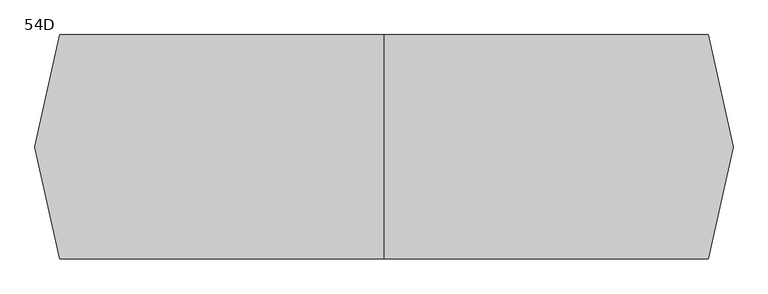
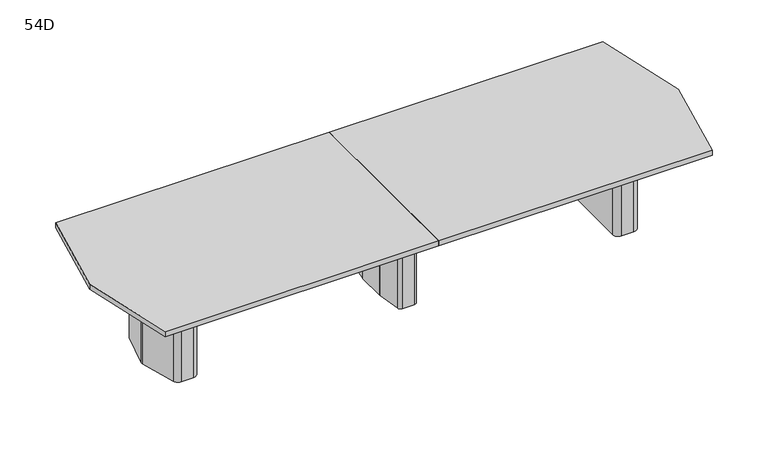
"""IFC4 building model written with IfcOpenShell, lengths in millimetres: furniture geometry, Coalesse_AM_Table_Conference_ETable2_Faceted_14ft_ThreeBase : 54D."""

from ifc_helpers import new_model, si_unit, frame, origin, place, context, project, spatial, polyline, circle_curve, outline, extrude, source, transform, mapped, element, save
from ifc_brep_helpers import plane_surface, cylinder_surface, revolved_surface, advanced_brep


def furniture_54d_fdfb3cb8(model_context):
    return source(origin(), model_context, "Body", "SolidModel", [
        advanced_brep(
        [(35.71875, 206.375, 3.175), (10.31875, 231.775, 3.175), (-10.31875, 231.775, 3.175), (-35.71875, 206.375, 3.175), (-35.71875, -206.375, 3.175), (-10.31875, -231.775, 3.175), (10.31875, -231.775, 3.175), (35.71875, -206.375, 3.175), (-61.11875, 206.375, 0.0), (-10.31875, 257.175, 0.0), (10.31875, 257.175, 0.0), (61.11875, 206.375, 0.0), (61.11875, -206.375, 0.0), (10.31875, -257.175, 0.0), (-10.31875, -257.175, 0.0), (-61.11875, -206.375, 0.0), (-61.11875, -206.375, 3.175), (-61.11875, 206.375, 3.175), (-10.31875, -257.175, 3.175), (10.31875, -257.175, 3.175), (61.11875, -206.375, 3.175), (61.11875, 206.375, 3.175), (10.31875, 257.175, 3.175), (-10.31875, 257.175, 3.175), (-92.6215974, 106.2976848, 698.5), (-92.86875, 102.7629613, 698.5), (-92.86875, -102.7629613, 698.5), (-92.6215974, -106.2976848, 698.5), (-67.7988375, -282.9347235, 698.5), (-42.6459902, -304.8, 698.5), (42.6459902, -304.8, 698.5), (67.7988375, -282.9347235, 698.5), (92.6215974, -106.2976848, 698.5), (92.86875, -102.7629613, 698.5), (92.86875, 102.7629613, 698.5), (92.6215974, 106.2976848, 698.5), (67.7988375, 282.9347235, 698.5), (42.6459902, 304.8, 698.5), (-42.6459902, 304.8, 698.5), (-67.7988375, 282.9347235, 698.5), (10.31875, 231.775, 698.5), (35.71875, 206.375, 698.5), (35.71875, -206.375, 698.5), (10.31875, -231.775, 698.5), (-10.31875, -231.775, 698.5), (-35.71875, -206.375, 698.5), (-35.71875, 206.375, 698.5), (-10.31875, 231.775, 698.5), (-92.6215974, 106.2976848, 3.175), (-67.7988375, 282.9347235, 3.175), (-42.6459902, 304.8, 3.175), (42.6459902, 304.8, 3.175), (67.7988375, 282.9347235, 3.175), (92.6215974, 106.2976848, 3.175), (92.86875, 102.7629613, 3.175), (92.86875, -102.7629613, 3.175), (92.6215974, -106.2976848, 3.175), (67.7988375, -282.9347235, 3.175), (42.6459902, -304.8, 3.175), (-42.6459902, -304.8, 3.175), (-67.7988375, -282.9347235, 3.175), (-92.6215974, -106.2976848, 3.175), (-92.86875, -102.7629613, 3.175), (-92.86875, 102.7629613, 3.175)],
        [
            (0, 1, circle_curve(frame((10.31875, 206.375, 3.175), z_axis=(0.0, 0.0, 1.0), x_axis=(1.0, 0.0, 0.0)), 25.4)),
            (1, 2),
            (2, 3, circle_curve(frame((-10.31875, 206.375, 3.175), z_axis=(0.0, 0.0, 1.0), x_axis=(1.0, 0.0, 0.0)), 25.4)),
            (3, 4),
            (4, 5, circle_curve(frame((-10.31875, -206.375, 3.175), z_axis=(0.0, 0.0, 1.0), x_axis=(1.0, 0.0, 0.0)), 25.4)),
            (5, 6),
            (6, 7, circle_curve(frame((10.31875, -206.375, 3.175), z_axis=(0.0, 0.0, 1.0), x_axis=(1.0, 0.0, 0.0)), 25.4)),
            (7, 0),
            (8, 9, circle_curve(frame((-10.31875, 206.375, 0.0), z_axis=(0.0, 0.0, -1.0), x_axis=(1.0, 0.0, 0.0)), 50.8)),
            (9, 10),
            (10, 11, circle_curve(frame((10.31875, 206.375, 0.0), z_axis=(0.0, 0.0, -1.0), x_axis=(1.0, 0.0, 0.0)), 50.8)),
            (11, 12),
            (12, 13, circle_curve(frame((10.31875, -206.375, 0.0), z_axis=(0.0, 0.0, -1.0), x_axis=(1.0, 0.0, 0.0)), 50.8)),
            (13, 14),
            (14, 15, circle_curve(frame((-10.31875, -206.375, 0.0), z_axis=(0.0, 0.0, -1.0), x_axis=(1.0, 0.0, 0.0)), 50.8)),
            (15, 8),
            (15, 16),
            (16, 17),
            (17, 8),
            (14, 18),
            (18, 16, circle_curve(frame((-10.31875, -206.375, 3.175), z_axis=(0.0, 0.0, -1.0), x_axis=(1.0, 0.0, 0.0)), 50.8)),
            (13, 19),
            (19, 18),
            (12, 20),
            (20, 19, circle_curve(frame((10.31875, -206.375, 3.175), z_axis=(0.0, 0.0, -1.0), x_axis=(1.0, 0.0, 0.0)), 50.8)),
            (11, 21),
            (21, 20),
            (10, 22),
            (22, 21, circle_curve(frame((10.31875, 206.375, 3.175), z_axis=(0.0, 0.0, -1.0), x_axis=(1.0, 0.0, 0.0)), 50.8)),
            (9, 23),
            (23, 22),
            (17, 23, circle_curve(frame((-10.31875, 206.375, 3.175), z_axis=(0.0, 0.0, -1.0), x_axis=(1.0, 0.0, 0.0)), 50.8)),
            (24, 25, circle_curve(frame((-67.46875, 102.7629613, 698.5), z_axis=(0.0, 0.0, 1.0), x_axis=(1.0, 0.0, 0.0)), 25.4)),
            (25, 26),
            (26, 27, circle_curve(frame((-67.46875, -102.7629613, 698.5), z_axis=(0.0, 0.0, 1.0), x_axis=(1.0, 0.0, 0.0)), 25.4)),
            (27, 28),
            (28, 29, circle_curve(frame((-42.6459902, -279.4, 698.5), z_axis=(0.0, 0.0, 1.0), x_axis=(1.0, 0.0, 0.0)), 25.4)),
            (29, 30),
            (30, 31, circle_curve(frame((42.6459902, -279.4, 698.5), z_axis=(0.0, 0.0, 1.0), x_axis=(1.0, 0.0, 0.0)), 25.4)),
            (31, 32),
            (32, 33, circle_curve(frame((67.46875, -102.7629613, 698.5), z_axis=(0.0, 0.0, 1.0), x_axis=(1.0, 0.0, 0.0)), 25.4)),
            (33, 34),
            (34, 35, circle_curve(frame((67.46875, 102.7629613, 698.5), z_axis=(0.0, 0.0, 1.0), x_axis=(1.0, 0.0, 0.0)), 25.4)),
            (35, 36),
            (36, 37, circle_curve(frame((42.6459902, 279.4, 698.5), z_axis=(0.0, 0.0, 1.0), x_axis=(1.0, 0.0, 0.0)), 25.4)),
            (37, 38),
            (38, 39, circle_curve(frame((-42.6459902, 279.4, 698.5), z_axis=(0.0, 0.0, 1.0), x_axis=(1.0, 0.0, 0.0)), 25.4)),
            (39, 24),
            (40, 41, circle_curve(frame((10.31875, 206.375, 698.5), z_axis=(0.0, 0.0, -1.0), x_axis=(1.0, 0.0, 0.0)), 25.4)),
            (41, 42),
            (42, 43, circle_curve(frame((10.31875, -206.375, 698.5), z_axis=(0.0, 0.0, -1.0), x_axis=(1.0, 0.0, 0.0)), 25.4)),
            (43, 44),
            (44, 45, circle_curve(frame((-10.31875, -206.375, 698.5), z_axis=(0.0, 0.0, -1.0), x_axis=(1.0, 0.0, 0.0)), 25.4)),
            (45, 46),
            (46, 47, circle_curve(frame((-10.31875, 206.375, 698.5), z_axis=(0.0, 0.0, -1.0), x_axis=(1.0, 0.0, 0.0)), 25.4)),
            (47, 40),
            (48, 49),
            (49, 50, circle_curve(frame((-42.6459902, 279.4, 3.175), z_axis=(0.0, 0.0, -1.0), x_axis=(1.0, 0.0, 0.0)), 25.4)),
            (50, 51),
            (51, 52, circle_curve(frame((42.6459902, 279.4, 3.175), z_axis=(0.0, 0.0, -1.0), x_axis=(1.0, 0.0, 0.0)), 25.4)),
            (52, 53),
            (53, 54, circle_curve(frame((67.46875, 102.7629613, 3.175), z_axis=(0.0, 0.0, -1.0), x_axis=(1.0, 0.0, 0.0)), 25.4)),
            (54, 55),
            (55, 56, circle_curve(frame((67.46875, -102.7629613, 3.175), z_axis=(0.0, 0.0, -1.0), x_axis=(1.0, 0.0, 0.0)), 25.4)),
            (56, 57),
            (57, 58, circle_curve(frame((42.6459902, -279.4, 3.175), z_axis=(0.0, 0.0, -1.0), x_axis=(1.0, 0.0, 0.0)), 25.4)),
            (58, 59),
            (59, 60, circle_curve(frame((-42.6459902, -279.4, 3.175), z_axis=(0.0, 0.0, -1.0), x_axis=(1.0, 0.0, 0.0)), 25.4)),
            (60, 61),
            (61, 62, circle_curve(frame((-67.46875, -102.7629613, 3.175), z_axis=(0.0, 0.0, -1.0), x_axis=(1.0, 0.0, 0.0)), 25.4)),
            (62, 63),
            (63, 48, circle_curve(frame((-67.46875, 102.7629613, 3.175), z_axis=(0.0, 0.0, -1.0), x_axis=(1.0, 0.0, 0.0)), 25.4)),
            (24, 48),
            (63, 25),
            (62, 26),
            (61, 27),
            (60, 28),
            (59, 29),
            (58, 30),
            (57, 31),
            (56, 32),
            (55, 33),
            (54, 34),
            (53, 35),
            (52, 36),
            (51, 37),
            (50, 38),
            (49, 39),
            (40, 1),
            (0, 41),
            (7, 42),
            (6, 43),
            (5, 44),
            (4, 45),
            (3, 46),
            (2, 47),
        ],
        [
            plane_surface(frame((-61.11875, -206.375, 3.175), z_axis=(0.0, 0.0, 1.0), x_axis=(0.0, -1.0, 0.0))),
            plane_surface(frame((-61.11875, -206.375, 0.0), z_axis=(0.0, 0.0, -1.0), x_axis=(0.0, 1.0, 0.0))),
            plane_surface(frame((-61.11875, 206.375, 3.175), z_axis=(-1.0, 0.0, 0.0), x_axis=(0.0, 0.0, -1.0))),
            cylinder_surface(frame((-10.31875, -206.375, 0.0), z_axis=(0.0, 0.0, 1.0), x_axis=(1.0, 0.0, 0.0)), 50.8),
            plane_surface(frame((-10.31875, -257.175, 3.175), z_axis=(0.0, -1.0, 0.0), x_axis=(0.0, 0.0, -1.0))),
            cylinder_surface(frame((10.31875, -206.375, 0.0), z_axis=(0.0, 0.0, 1.0), x_axis=(1.0, 0.0, 0.0)), 50.8),
            plane_surface(frame((61.11875, -206.375, 3.175), z_axis=(1.0, 0.0, 0.0), x_axis=(0.0, 0.0, -1.0))),
            cylinder_surface(frame((10.31875, 206.375, 0.0), z_axis=(0.0, 0.0, 1.0), x_axis=(1.0, 0.0, 0.0)), 50.8),
            plane_surface(frame((10.31875, 257.175, 3.175), z_axis=(0.0, 1.0, 0.0), x_axis=(0.0, 0.0, -1.0))),
            cylinder_surface(frame((-10.31875, 206.375, 0.0), z_axis=(0.0, 0.0, 1.0), x_axis=(1.0, 0.0, 0.0)), 50.8),
            plane_surface(frame((-42.06875, 102.7629613, 698.5), z_axis=(0.0, 0.0, 1.0), x_axis=(0.0, 1.0, 0.0))),
            plane_surface(frame((-42.06875, 102.7629613, 3.175), z_axis=(0.0, 0.0, -1.0), x_axis=(0.0, -1.0, 0.0))),
            cylinder_surface(frame((-67.46875, 102.7629613, 3.175), z_axis=(0.0, 0.0, 1.0), x_axis=(1.0, 0.0, 0.0)), 25.4),
            plane_surface(frame((-92.86875, 102.7629613, 698.5), z_axis=(-1.0, 0.0, 0.0), x_axis=(0.0, 0.0, -1.0))),
            cylinder_surface(frame((-67.46875, -102.7629613, 3.175), z_axis=(0.0, 0.0, 1.0), x_axis=(1.0, 0.0, 0.0)), 25.4),
            plane_surface(frame((-92.6215974, -106.2976848, 698.5), z_axis=(-0.9902695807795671, -0.13916234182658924, 0.0), x_axis=(0.0, 0.0, -1.0))),
            cylinder_surface(frame((-42.6459902, -279.4, 3.175), z_axis=(0.0, 0.0, 1.0), x_axis=(1.0, 0.0, 0.0)), 25.4),
            plane_surface(frame((-42.6459902, -304.8, 698.5), z_axis=(0.0, -1.0, 0.0), x_axis=(0.0, 0.0, -1.0))),
            cylinder_surface(frame((42.6459902, -279.4, 3.175), z_axis=(0.0, 0.0, 1.0), x_axis=(1.0, 0.0, 0.0)), 25.4),
            plane_surface(frame((67.7988375, -282.9347235, 698.5), z_axis=(0.9902695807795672, -0.13916234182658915, 0.0), x_axis=(0.0, 0.0, -1.0))),
            cylinder_surface(frame((67.46875, -102.7629613, 3.175), z_axis=(0.0, 0.0, 1.0), x_axis=(1.0, 0.0, 0.0)), 25.4),
            plane_surface(frame((92.86875, -102.7629613, 698.5), z_axis=(1.0, 0.0, 0.0), x_axis=(0.0, 0.0, -1.0))),
            cylinder_surface(frame((67.46875, 102.7629613, 3.175), z_axis=(0.0, 0.0, 1.0), x_axis=(1.0, 0.0, 0.0)), 25.4),
            plane_surface(frame((92.6215974, 106.2976848, 698.5), z_axis=(0.9902695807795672, 0.1391623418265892, 0.0), x_axis=(0.0, 0.0, -1.0))),
            cylinder_surface(frame((42.6459902, 279.4, 3.175), z_axis=(0.0, 0.0, 1.0), x_axis=(1.0, 0.0, 0.0)), 25.4),
            plane_surface(frame((42.6459902, 304.8, 698.5), z_axis=(0.0, 1.0, 0.0), x_axis=(0.0, 0.0, -1.0))),
            cylinder_surface(frame((-42.6459902, 279.4, 3.175), z_axis=(0.0, 0.0, 1.0), x_axis=(1.0, 0.0, 0.0)), 25.4),
            plane_surface(frame((-67.7988375, 282.9347235, 698.5), z_axis=(-0.9902695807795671, 0.13916234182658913, 0.0), x_axis=(0.0, 0.0, -1.0))),
            revolved_surface(polyline([(35.71875, 206.375, 3.175), (35.71875, 206.375, 698.5)]), (10.31875, 206.375, 0.0), (0.0, 0.0, -1.0)),
            plane_surface(frame((35.71875, 206.375, 698.5), z_axis=(-1.0, 0.0, 0.0), x_axis=(0.0, 0.0, -1.0))),
            revolved_surface(polyline([(35.71875, -206.375, 3.175), (35.71875, -206.375, 698.5)]), (10.31875, -206.375, 0.0), (0.0, 0.0, -1.0)),
            plane_surface(frame((10.31875, -231.775, 698.5), z_axis=(0.0, 1.0, 0.0), x_axis=(0.0, 0.0, -1.0))),
            revolved_surface(polyline([(15.081249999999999, -206.375, 3.175), (15.081249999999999, -206.375, 698.5)]), (-10.31875, -206.375, 0.0), (0.0, 0.0, -1.0)),
            plane_surface(frame((-35.71875, -206.375, 698.5), z_axis=(1.0, 0.0, 0.0), x_axis=(0.0, 0.0, -1.0))),
            revolved_surface(polyline([(15.081249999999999, 206.375, 3.175), (15.081249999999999, 206.375, 698.5)]), (-10.31875, 206.375, 0.0), (0.0, 0.0, -1.0)),
            plane_surface(frame((-10.31875, 231.775, 698.5), z_axis=(0.0, -1.0, 0.0), x_axis=(0.0, 0.0, -1.0))),
        ],
        [
            (0, [[1, 2, 3, 4, 5, 6, 7, 8]]),
            (1, [[9, 10, 11, 12, 13, 14, 15, 16]]),
            (2, [[-16, 17, 18, 19]]),
            (3, [[-15, 20, 21, -17]]),
            (4, [[-14, 22, 23, -20]]),
            (5, [[-13, 24, 25, -22]]),
            (6, [[-12, 26, 27, -24]]),
            (7, [[-11, 28, 29, -26]]),
            (8, [[-10, 30, 31, -28]]),
            (9, [[-9, -19, 32, -30]]),
            (10, [[33, 34, 35, 36, 37, 38, 39, 40, 41, 42, 43, 44, 45, 46, 47, 48], [49, 50, 51, 52, 53, 54, 55, 56]]),
            (11, [[57, 58, 59, 60, 61, 62, 63, 64, 65, 66, 67, 68, 69, 70, 71, 72], [-18, -21, -23, -25, -27, -29, -31, -32]]),
            (12, [[-33, 73, -72, 74]]),
            (13, [[-34, -74, -71, 75]]),
            (14, [[-35, -75, -70, 76]]),
            (15, [[-36, -76, -69, 77]]),
            (16, [[-37, -77, -68, 78]]),
            (17, [[-38, -78, -67, 79]]),
            (18, [[-39, -79, -66, 80]]),
            (19, [[-40, -80, -65, 81]]),
            (20, [[-41, -81, -64, 82]]),
            (21, [[-42, -82, -63, 83]]),
            (22, [[-43, -83, -62, 84]]),
            (23, [[-44, -84, -61, 85]]),
            (24, [[-45, -85, -60, 86]]),
            (25, [[-46, -86, -59, 87]]),
            (26, [[-47, -87, -58, 88]]),
            (27, [[-48, -88, -57, -73]]),
            (28, [[-49, 89, -1, 90]]),
            (29, [[-50, -90, -8, 91]]),
            (30, [[-51, -91, -7, 92]]),
            (31, [[-52, -92, -6, 93]]),
            (32, [[-53, -93, -5, 94]]),
            (33, [[-54, -94, -4, 95]]),
            (34, [[-55, -95, -3, 96]]),
            (35, [[-56, -96, -2, -89]]),
        ],
    ),
        advanced_brep(
        [(1675.024548, 274.2093613, 698.5), (1635.1579246, 304.8, 698.5), (1546.225, 304.8, 698.5), (1504.95, 263.525, 698.5), (1504.95, -263.525, 698.5), (1546.225, -304.8, 698.5), (1635.1579246, -304.8, 698.5), (1675.024548, -274.2093613, 698.5), (1745.6503901, -10.6333708, 698.5), (1745.6503901, 10.6333708, 698.5), (1543.05, -206.375, 698.5), (1543.05, 206.375, 698.5), (1568.45, 231.775, 698.5), (1627.4608422, 231.775, 698.5), (1651.995338, 212.9490792, 698.5), (1690.6875, 68.54974, 698.5), (1690.6875, -68.54974, 698.5), (1651.995338, -212.9490792, 698.5), (1627.4608422, -231.775, 698.5), (1568.45, -231.775, 698.5), (1675.024548, 274.2093613, 3.175), (1745.6503901, 10.6333708, 3.175), (1745.6503901, -10.6333708, 3.175), (1675.024548, -274.2093613, 3.175), (1635.1579246, -304.8, 3.175), (1546.225, -304.8, 3.175), (1504.95, -263.525, 3.175), (1504.95, 263.525, 3.175), (1546.225, 304.8, 3.175), (1635.1579246, 304.8, 3.175), (1664.2625859, 216.2361187, 3.175), (1627.4608422, 244.475, 3.175), (1568.45, 244.475, 3.175), (1530.35, 206.375, 3.175), (1530.35, -206.375, 3.175), (1568.45, -244.475, 3.175), (1627.4608422, -244.475, 3.175), (1664.2625859, -216.2361187, 3.175), (1703.3875, -70.2217466, 3.175), (1703.3875, 70.2217466, 3.175), (1568.45, -231.775, 3.175), (1543.05, -206.375, 3.175), (1627.4608422, -231.775, 3.175), (1651.995338, -212.9490792, 3.175), (1690.6875, -68.54974, 3.175), (1690.6875, 68.54974, 3.175), (1651.995338, 212.9490792, 3.175), (1627.4608422, 231.775, 3.175), (1568.45, 231.775, 3.175), (1543.05, 206.375, 3.175), (1664.2625859, 216.2361187, 0.0), (1703.3875, 70.2217466, 0.0), (1703.3875, -70.2217466, 0.0), (1664.2625859, -216.2361187, 0.0), (1627.4608422, -244.475, 0.0), (1568.45, -244.475, 0.0), (1530.35, -206.375, 0.0), (1530.35, 206.375, 0.0), (1568.45, 244.475, 0.0), (1627.4608422, 244.475, 0.0)],
        [
            (0, 1, circle_curve(frame((1635.1579246, 263.5270004, 698.5), z_axis=(0.0, 0.0, 1.0), x_axis=(-1.0, 0.0, 0.0)), 41.2729996)),
            (1, 2),
            (2, 3, circle_curve(frame((1546.225, 263.525, 698.5), z_axis=(0.0, 0.0, 1.0), x_axis=(-1.0, 0.0, 0.0)), 41.275)),
            (3, 4),
            (4, 5, circle_curve(frame((1546.225, -263.525, 698.5), z_axis=(0.0, 0.0, 1.0), x_axis=(-1.0, 0.0, 0.0)), 41.275)),
            (5, 6),
            (6, 7, circle_curve(frame((1635.1579246, -263.5270004, 698.5), z_axis=(0.0, 0.0, 1.0), x_axis=(-1.0, 0.0, 0.0)), 41.2729996)),
            (7, 8),
            (8, 9, circle_curve(frame((1705.9665979, 0.0, 698.5), z_axis=(0.0, 0.0, 1.0), x_axis=(-1.0, 0.0, 0.0)), 41.0837187)),
            (9, 0),
            (10, 11),
            (11, 12, circle_curve(frame((1568.45, 206.375, 698.5), z_axis=(0.0, 0.0, -1.0), x_axis=(-1.0, 0.0, 0.0)), 25.4)),
            (12, 13),
            (13, 14, circle_curve(frame((1627.4608422, 206.375, 698.5), z_axis=(0.0, 0.0, -1.0), x_axis=(-1.0, 0.0, 0.0)), 25.4)),
            (14, 15),
            (15, 16),
            (16, 17),
            (17, 18, circle_curve(frame((1627.4608422, -206.375, 698.5), z_axis=(0.0, 0.0, -1.0), x_axis=(-1.0, 0.0, 0.0)), 25.4)),
            (18, 19),
            (19, 10, circle_curve(frame((1568.45, -206.375, 698.5), z_axis=(0.0, 0.0, -1.0), x_axis=(-1.0, 0.0, 0.0)), 25.4)),
            (20, 21),
            (21, 22, circle_curve(frame((1705.9665979, 0.0, 3.175), z_axis=(0.0, 0.0, -1.0), x_axis=(-1.0, 0.0, 0.0)), 41.0837187)),
            (22, 23),
            (23, 24, circle_curve(frame((1635.1579246, -263.5270004, 3.175), z_axis=(0.0, 0.0, -1.0), x_axis=(-1.0, 0.0, 0.0)), 41.2729996)),
            (24, 25),
            (25, 26, circle_curve(frame((1546.225, -263.525, 3.175), z_axis=(0.0, 0.0, -1.0), x_axis=(-1.0, 0.0, 0.0)), 41.275)),
            (26, 27),
            (27, 28, circle_curve(frame((1546.225, 263.525, 3.175), z_axis=(0.0, 0.0, -1.0), x_axis=(-1.0, 0.0, 0.0)), 41.275)),
            (28, 29),
            (29, 20, circle_curve(frame((1635.1579246, 263.5270004, 3.175), z_axis=(0.0, 0.0, -1.0), x_axis=(-1.0, 0.0, 0.0)), 41.2729996)),
            (30, 31, circle_curve(frame((1627.4608422, 206.375, 3.175), z_axis=(0.0, 0.0, 1.0), x_axis=(-1.0, 0.0, 0.0)), 38.1)),
            (31, 32),
            (32, 33, circle_curve(frame((1568.45, 206.375, 3.175), z_axis=(0.0, 0.0, 1.0), x_axis=(-1.0, 0.0, 0.0)), 38.1)),
            (33, 34),
            (34, 35, circle_curve(frame((1568.45, -206.375, 3.175), z_axis=(0.0, 0.0, 1.0), x_axis=(-1.0, 0.0, 0.0)), 38.1)),
            (35, 36),
            (36, 37, circle_curve(frame((1627.4608422, -206.375, 3.175), z_axis=(0.0, 0.0, 1.0), x_axis=(-1.0, 0.0, 0.0)), 38.1)),
            (37, 38),
            (38, 39),
            (39, 30),
            (9, 21),
            (20, 0),
            (8, 22),
            (7, 23),
            (6, 24),
            (5, 25),
            (4, 26),
            (3, 27),
            (2, 28),
            (1, 29),
            (19, 40),
            (40, 41, circle_curve(frame((1568.45, -206.375, 3.175), z_axis=(0.0, 0.0, -1.0), x_axis=(-1.0, 0.0, 0.0)), 25.4)),
            (41, 10),
            (18, 42),
            (42, 40),
            (17, 43),
            (43, 42, circle_curve(frame((1627.4608422, -206.375, 3.175), z_axis=(0.0, 0.0, -1.0), x_axis=(-1.0, 0.0, 0.0)), 25.4)),
            (16, 44),
            (44, 43),
            (15, 45),
            (45, 44),
            (14, 46),
            (46, 45),
            (13, 47),
            (47, 46, circle_curve(frame((1627.4608422, 206.375, 3.175), z_axis=(0.0, 0.0, -1.0), x_axis=(-1.0, 0.0, 0.0)), 25.4)),
            (12, 48),
            (48, 47),
            (11, 49),
            (49, 48, circle_curve(frame((1568.45, 206.375, 3.175), z_axis=(0.0, 0.0, -1.0), x_axis=(-1.0, 0.0, 0.0)), 25.4)),
            (41, 49),
            (50, 51),
            (51, 52),
            (52, 53),
            (53, 54, circle_curve(frame((1627.4608422, -206.375, 0.0), z_axis=(0.0, 0.0, -1.0), x_axis=(-1.0, 0.0, 0.0)), 38.1)),
            (54, 55),
            (55, 56, circle_curve(frame((1568.45, -206.375, 0.0), z_axis=(0.0, 0.0, -1.0), x_axis=(-1.0, 0.0, 0.0)), 38.1)),
            (56, 57),
            (57, 58, circle_curve(frame((1568.45, 206.375, 0.0), z_axis=(0.0, 0.0, -1.0), x_axis=(-1.0, 0.0, 0.0)), 38.1)),
            (58, 59),
            (59, 50, circle_curve(frame((1627.4608422, 206.375, 0.0), z_axis=(0.0, 0.0, -1.0), x_axis=(-1.0, 0.0, 0.0)), 38.1)),
            (50, 30),
            (39, 51),
            (38, 52),
            (37, 53),
            (36, 54),
            (35, 55),
            (34, 56),
            (33, 57),
            (32, 58),
            (31, 59),
        ],
        [
            plane_surface(frame((1745.6374275, 10.6817473, 698.5), z_axis=(0.0, 0.0, 1.0000000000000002), x_axis=(0.25882201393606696, -0.9659250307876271, 0.0))),
            plane_surface(frame((1745.6374275, 10.6817473, 3.175), z_axis=(0.0, 0.0, -1.0000000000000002), x_axis=(-0.25882201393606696, 0.9659250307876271, 0.0))),
            plane_surface(frame((1675.024548, 274.2093613, 698.5), z_axis=(0.9659250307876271, 0.25882201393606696, 0.0), x_axis=(0.0, 0.0, -1.0))),
            cylinder_surface(frame((1705.9665979, 0.0, 3.175), z_axis=(0.0, 0.0, 1.0), x_axis=(-1.0, 0.0, 0.0)), 41.0837187),
            plane_surface(frame((1745.6503901, -10.6333708, 698.5), z_axis=(0.9659250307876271, -0.2588220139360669, 0.0), x_axis=(0.0, 0.0, -1.0))),
            cylinder_surface(frame((1635.1579246, -263.5270004, 3.175), z_axis=(0.0, 0.0, 1.0), x_axis=(-1.0, 0.0, 0.0)), 41.2729996),
            plane_surface(frame((1635.1579246, -304.8, 698.5), z_axis=(0.0, -1.0, 0.0), x_axis=(0.0, 0.0, -1.0))),
            cylinder_surface(frame((1546.225, -263.525, 3.175), z_axis=(0.0, 0.0, 1.0), x_axis=(-1.0, 0.0, 0.0)), 41.275),
            plane_surface(frame((1504.95, -263.525, 698.5), z_axis=(-1.0, 0.0, 0.0), x_axis=(0.0, 0.0, -1.0))),
            cylinder_surface(frame((1546.225, 263.525, 3.175), z_axis=(0.0, 0.0, 1.0), x_axis=(-1.0, 0.0, 0.0)), 41.275),
            plane_surface(frame((1546.225, 304.8, 698.5), z_axis=(0.0, 1.0, 0.0), x_axis=(0.0, 0.0, -1.0))),
            cylinder_surface(frame((1635.1579246, 263.5270004, 3.175), z_axis=(0.0, 0.0, 1.0), x_axis=(-1.0, 0.0, 0.0)), 41.2729996),
            revolved_surface(polyline([(1543.05, -206.375, 3.175), (1543.05, -206.375, 698.5)]), (1568.45, -206.375, 0.0), (0.0, 0.0, -1.0)),
            plane_surface(frame((1568.45, -231.775, 698.5), z_axis=(0.0, 1.0, 0.0), x_axis=(0.0, 0.0, -1.0))),
            revolved_surface(polyline([(1602.0608421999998, -206.375, 3.175), (1602.0608421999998, -206.375, 698.5)]), (1627.4608422, -206.375, 0.0), (0.0, 0.0, -1.0)),
            plane_surface(frame((1651.995338, -212.9490792, 698.5), z_axis=(-0.9659250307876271, 0.2588220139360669, 0.0), x_axis=(0.0, 0.0, -1.0))),
            plane_surface(frame((1690.6875, -68.54974, 698.5), z_axis=(-1.0, 0.0, 0.0), x_axis=(0.0, 0.0, -1.0))),
            plane_surface(frame((1690.6875, 68.54974, 698.5), z_axis=(-0.9659250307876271, -0.25882201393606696, 0.0), x_axis=(0.0, 0.0, -1.0))),
            revolved_surface(polyline([(1602.0608421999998, 206.375, 3.175), (1602.0608421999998, 206.375, 698.5)]), (1627.4608422, 206.375, 0.0), (0.0, 0.0, -1.0)),
            plane_surface(frame((1627.4608422, 231.775, 698.5), z_axis=(0.0, -1.0, 0.0), x_axis=(0.0, 0.0, -1.0))),
            revolved_surface(polyline([(1543.05, 206.375, 3.175), (1543.05, 206.375, 698.5)]), (1568.45, 206.375, 0.0), (0.0, 0.0, -1.0)),
            plane_surface(frame((1543.05, 206.375, 698.5), z_axis=(1.0, 0.0, 0.0), x_axis=(0.0, 0.0, -1.0))),
            plane_surface(frame((1702.9547479, 71.8367796, 3.175), z_axis=(0.0, 0.0, 1.0), x_axis=(0.25882201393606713, -0.965925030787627, 0.0))),
            plane_surface(frame((1702.9547479, 71.8367796, 0.0), z_axis=(0.0, 0.0, -1.0), x_axis=(-0.25882201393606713, 0.965925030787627, 0.0))),
            plane_surface(frame((1664.2625859, 216.2361187, 3.175), z_axis=(0.965925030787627, 0.25882201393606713, 0.0), x_axis=(0.0, 0.0, -1.0))),
            plane_surface(frame((1703.3875, 70.2217466, 3.175), z_axis=(1.0, 0.0, 0.0), x_axis=(0.0, 0.0, -1.0))),
            plane_surface(frame((1703.3875, -70.2217466, 3.175), z_axis=(0.9659250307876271, -0.2588220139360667, 0.0), x_axis=(0.0, 0.0, -1.0))),
            cylinder_surface(frame((1627.4608422, -206.375, 0.0), z_axis=(0.0, 0.0, 1.0), x_axis=(-1.0, 0.0, 0.0)), 38.1),
            plane_surface(frame((1627.4608422, -244.475, 3.175), z_axis=(0.0, -1.0, 0.0), x_axis=(0.0, 0.0, -1.0))),
            cylinder_surface(frame((1568.45, -206.375, 0.0), z_axis=(0.0, 0.0, 1.0), x_axis=(-1.0, 0.0, 0.0)), 38.1),
            plane_surface(frame((1530.35, -206.375, 3.175), z_axis=(-1.0, 0.0, 0.0), x_axis=(0.0, 0.0, -1.0))),
            cylinder_surface(frame((1568.45, 206.375, 0.0), z_axis=(0.0, 0.0, 1.0), x_axis=(-1.0, 0.0, 0.0)), 38.1),
            plane_surface(frame((1568.45, 244.475, 3.175), z_axis=(0.0, 1.0, 0.0), x_axis=(0.0, 0.0, -1.0))),
            cylinder_surface(frame((1627.4608422, 206.375, 0.0), z_axis=(0.0, 0.0, 1.0), x_axis=(-1.0, 0.0, 0.0)), 38.1),
        ],
        [
            (0, [[1, 2, 3, 4, 5, 6, 7, 8, 9, 10], [11, 12, 13, 14, 15, 16, 17, 18, 19, 20]]),
            (1, [[21, 22, 23, 24, 25, 26, 27, 28, 29, 30], [31, 32, 33, 34, 35, 36, 37, 38, 39, 40]]),
            (2, [[41, -21, 42, -10]]),
            (3, [[43, -22, -41, -9]]),
            (4, [[44, -23, -43, -8]]),
            (5, [[45, -24, -44, -7]]),
            (6, [[46, -25, -45, -6]]),
            (7, [[47, -26, -46, -5]]),
            (8, [[48, -27, -47, -4]]),
            (9, [[49, -28, -48, -3]]),
            (10, [[50, -29, -49, -2]]),
            (11, [[-42, -30, -50, -1]]),
            (12, [[51, 52, 53, -20]]),
            (13, [[54, 55, -51, -19]]),
            (14, [[56, 57, -54, -18]]),
            (15, [[58, 59, -56, -17]]),
            (16, [[60, 61, -58, -16]]),
            (17, [[62, 63, -60, -15]]),
            (18, [[64, 65, -62, -14]]),
            (19, [[66, 67, -64, -13]]),
            (20, [[68, 69, -66, -12]]),
            (21, [[-53, 70, -68, -11]]),
            (22, [[-55, -57, -59, -61, -63, -65, -67, -69, -70, -52]]),
            (23, [[71, 72, 73, 74, 75, 76, 77, 78, 79, 80]]),
            (24, [[81, -40, 82, -71]]),
            (25, [[-82, -39, 83, -72]]),
            (26, [[-83, -38, 84, -73]]),
            (27, [[-84, -37, 85, -74]]),
            (28, [[-85, -36, 86, -75]]),
            (29, [[-86, -35, 87, -76]]),
            (30, [[-87, -34, 88, -77]]),
            (31, [[-88, -33, 89, -78]]),
            (32, [[-89, -32, 90, -79]]),
            (33, [[-90, -31, -81, -80]]),
        ],
    ),
        advanced_brep(
        [(-1686.137048, 274.2093613, 698.5), (-1756.7628901, 10.6333708, 698.5), (-1756.7628901, -10.6333708, 698.5), (-1686.137048, -274.2093613, 698.5), (-1646.2704246, -304.8, 698.5), (-1557.3375, -304.8, 698.5), (-1516.0625, -263.525, 698.5), (-1516.0625, 263.525, 698.5), (-1557.3375, 304.8, 698.5), (-1646.2704246, 304.8, 698.5), (-1554.1625, -206.375, 698.5), (-1579.5625, -231.775, 698.5), (-1638.5733422, -231.775, 698.5), (-1663.107838, -212.9490792, 698.5), (-1701.8, -68.54974, 698.5), (-1701.8, 68.54974, 698.5), (-1663.107838, 212.9490792, 698.5), (-1638.5733422, 231.775, 698.5), (-1579.5625, 231.775, 698.5), (-1554.1625, 206.375, 698.5), (-1686.137048, 274.2093613, 3.175), (-1646.2704246, 304.8, 3.175), (-1557.3375, 304.8, 3.175), (-1516.0625, 263.525, 3.175), (-1516.0625, -263.525, 3.175), (-1557.3375, -304.8, 3.175), (-1646.2704246, -304.8, 3.175), (-1686.137048, -274.2093613, 3.175), (-1756.7628901, -10.6333708, 3.175), (-1756.7628901, 10.6333708, 3.175), (-1675.3750859, 216.2361187, 3.175), (-1714.5, 70.2217466, 3.175), (-1714.5, -70.2217466, 3.175), (-1675.3750859, -216.2361187, 3.175), (-1638.5733422, -244.475, 3.175), (-1579.5625, -244.475, 3.175), (-1541.4625, -206.375, 3.175), (-1541.4625, 206.375, 3.175), (-1579.5625, 244.475, 3.175), (-1638.5733422, 244.475, 3.175), (-1554.1625, -206.375, 3.175), (-1579.5625, -231.775, 3.175), (-1638.5733422, -231.775, 3.175), (-1663.107838, -212.9490792, 3.175), (-1701.8, -68.54974, 3.175), (-1701.8, 68.54974, 3.175), (-1663.107838, 212.9490792, 3.175), (-1638.5733422, 231.775, 3.175), (-1579.5625, 231.775, 3.175), (-1554.1625, 206.375, 3.175), (-1675.3750859, 216.2361187, 0.0), (-1638.5733422, 244.475, 0.0), (-1579.5625, 244.475, 0.0), (-1541.4625, 206.375, 0.0), (-1541.4625, -206.375, 0.0), (-1579.5625, -244.475, 0.0), (-1638.5733422, -244.475, 0.0), (-1675.3750859, -216.2361187, 0.0), (-1714.5, -70.2217466, 0.0), (-1714.5, 70.2217466, 0.0)],
        [
            (0, 1),
            (1, 2, circle_curve(frame((-1717.0790979, 0.0, 698.5), z_axis=(0.0, 0.0, 1.0), x_axis=(1.0, 0.0, 0.0)), 41.0837187)),
            (2, 3),
            (3, 4, circle_curve(frame((-1646.2704246, -263.5270004, 698.5), z_axis=(0.0, 0.0, 1.0), x_axis=(1.0, 0.0, 0.0)), 41.2729996)),
            (4, 5),
            (5, 6, circle_curve(frame((-1557.3375, -263.525, 698.5), z_axis=(0.0, 0.0, 1.0), x_axis=(1.0, 0.0, 0.0)), 41.275)),
            (6, 7),
            (7, 8, circle_curve(frame((-1557.3375, 263.525, 698.5), z_axis=(0.0, 0.0, 1.0), x_axis=(1.0, 0.0, 0.0)), 41.275)),
            (8, 9),
            (9, 0, circle_curve(frame((-1646.2704246, 263.5270004, 698.5), z_axis=(0.0, 0.0, 1.0), x_axis=(1.0, 0.0, 0.0)), 41.2729996)),
            (10, 11, circle_curve(frame((-1579.5625, -206.375, 698.5), z_axis=(0.0, 0.0, -1.0), x_axis=(1.0, 0.0, 0.0)), 25.4)),
            (11, 12),
            (12, 13, circle_curve(frame((-1638.5733422, -206.375, 698.5), z_axis=(0.0, 0.0, -1.0), x_axis=(1.0, 0.0, 0.0)), 25.4)),
            (13, 14),
            (14, 15),
            (15, 16),
            (16, 17, circle_curve(frame((-1638.5733422, 206.375, 698.5), z_axis=(0.0, 0.0, -1.0), x_axis=(1.0, 0.0, 0.0)), 25.4)),
            (17, 18),
            (18, 19, circle_curve(frame((-1579.5625, 206.375, 698.5), z_axis=(0.0, 0.0, -1.0), x_axis=(1.0, 0.0, 0.0)), 25.4)),
            (19, 10),
            (20, 21, circle_curve(frame((-1646.2704246, 263.5270004, 3.175), z_axis=(0.0, 0.0, -1.0), x_axis=(1.0, 0.0, 0.0)), 41.2729996)),
            (21, 22),
            (22, 23, circle_curve(frame((-1557.3375, 263.525, 3.175), z_axis=(0.0, 0.0, -1.0), x_axis=(1.0, 0.0, 0.0)), 41.275)),
            (23, 24),
            (24, 25, circle_curve(frame((-1557.3375, -263.525, 3.175), z_axis=(0.0, 0.0, -1.0), x_axis=(1.0, 0.0, 0.0)), 41.275)),
            (25, 26),
            (26, 27, circle_curve(frame((-1646.2704246, -263.5270004, 3.175), z_axis=(0.0, 0.0, -1.0), x_axis=(1.0, 0.0, 0.0)), 41.2729996)),
            (27, 28),
            (28, 29, circle_curve(frame((-1717.0790979, 0.0, 3.175), z_axis=(0.0, 0.0, -1.0), x_axis=(1.0, 0.0, 0.0)), 41.0837187)),
            (29, 20),
            (30, 31),
            (31, 32),
            (32, 33),
            (33, 34, circle_curve(frame((-1638.5733422, -206.375, 3.175), z_axis=(0.0, 0.0, 1.0), x_axis=(1.0, 0.0, 0.0)), 38.1)),
            (34, 35),
            (35, 36, circle_curve(frame((-1579.5625, -206.375, 3.175), z_axis=(0.0, 0.0, 1.0), x_axis=(1.0, 0.0, 0.0)), 38.1)),
            (36, 37),
            (37, 38, circle_curve(frame((-1579.5625, 206.375, 3.175), z_axis=(0.0, 0.0, 1.0), x_axis=(1.0, 0.0, 0.0)), 38.1)),
            (38, 39),
            (39, 30, circle_curve(frame((-1638.5733422, 206.375, 3.175), z_axis=(0.0, 0.0, 1.0), x_axis=(1.0, 0.0, 0.0)), 38.1)),
            (0, 20),
            (29, 1),
            (28, 2),
            (27, 3),
            (26, 4),
            (25, 5),
            (24, 6),
            (23, 7),
            (22, 8),
            (21, 9),
            (10, 40),
            (40, 41, circle_curve(frame((-1579.5625, -206.375, 3.175), z_axis=(0.0, 0.0, -1.0), x_axis=(1.0, 0.0, 0.0)), 25.4)),
            (41, 11),
            (41, 42),
            (42, 12),
            (42, 43, circle_curve(frame((-1638.5733422, -206.375, 3.175), z_axis=(0.0, 0.0, -1.0), x_axis=(1.0, 0.0, 0.0)), 25.4)),
            (43, 13),
            (43, 44),
            (44, 14),
            (44, 45),
            (45, 15),
            (45, 46),
            (46, 16),
            (46, 47, circle_curve(frame((-1638.5733422, 206.375, 3.175), z_axis=(0.0, 0.0, -1.0), x_axis=(1.0, 0.0, 0.0)), 25.4)),
            (47, 17),
            (47, 48),
            (48, 18),
            (48, 49, circle_curve(frame((-1579.5625, 206.375, 3.175), z_axis=(0.0, 0.0, -1.0), x_axis=(1.0, 0.0, 0.0)), 25.4)),
            (49, 19),
            (49, 40),
            (50, 51, circle_curve(frame((-1638.5733422, 206.375, 0.0), z_axis=(0.0, 0.0, -1.0), x_axis=(1.0, 0.0, 0.0)), 38.1)),
            (51, 52),
            (52, 53, circle_curve(frame((-1579.5625, 206.375, 0.0), z_axis=(0.0, 0.0, -1.0), x_axis=(1.0, 0.0, 0.0)), 38.1)),
            (53, 54),
            (54, 55, circle_curve(frame((-1579.5625, -206.375, 0.0), z_axis=(0.0, 0.0, -1.0), x_axis=(1.0, 0.0, 0.0)), 38.1)),
            (55, 56),
            (56, 57, circle_curve(frame((-1638.5733422, -206.375, 0.0), z_axis=(0.0, 0.0, -1.0), x_axis=(1.0, 0.0, 0.0)), 38.1)),
            (57, 58),
            (58, 59),
            (59, 50),
            (59, 31),
            (30, 50),
            (58, 32),
            (57, 33),
            (56, 34),
            (55, 35),
            (54, 36),
            (53, 37),
            (52, 38),
            (51, 39),
        ],
        [
            plane_surface(frame((-1756.7499275, 10.6817473, 698.5), z_axis=(0.0, 0.0, 1.0000000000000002), x_axis=(-0.25882201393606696, -0.9659250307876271, 0.0))),
            plane_surface(frame((-1756.7499275, 10.6817473, 3.175), z_axis=(0.0, 0.0, -1.0000000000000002), x_axis=(0.25882201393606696, 0.9659250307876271, 0.0))),
            plane_surface(frame((-1686.137048, 274.2093613, 698.5), z_axis=(-0.9659250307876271, 0.25882201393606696, 0.0), x_axis=(0.0, 0.0, -1.0))),
            cylinder_surface(frame((-1717.0790979, 0.0, 3.175), z_axis=(0.0, 0.0, 1.0), x_axis=(1.0, 0.0, 0.0)), 41.0837187),
            plane_surface(frame((-1756.7628901, -10.6333708, 698.5), z_axis=(-0.9659250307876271, -0.2588220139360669, 0.0), x_axis=(0.0, 0.0, -1.0))),
            cylinder_surface(frame((-1646.2704246, -263.5270004, 3.175), z_axis=(0.0, 0.0, 1.0), x_axis=(1.0, 0.0, 0.0)), 41.2729996),
            plane_surface(frame((-1646.2704246, -304.8, 698.5), z_axis=(0.0, -1.0, 0.0), x_axis=(0.0, 0.0, -1.0))),
            cylinder_surface(frame((-1557.3375, -263.525, 3.175), z_axis=(0.0, 0.0, 1.0), x_axis=(1.0, 0.0, 0.0)), 41.275),
            plane_surface(frame((-1516.0625, -263.525, 698.5), z_axis=(1.0, 0.0, 0.0), x_axis=(0.0, 0.0, -1.0))),
            cylinder_surface(frame((-1557.3375, 263.525, 3.175), z_axis=(0.0, 0.0, 1.0), x_axis=(1.0, 0.0, 0.0)), 41.275),
            plane_surface(frame((-1557.3375, 304.8, 698.5), z_axis=(0.0, 1.0, 0.0), x_axis=(0.0, 0.0, -1.0))),
            cylinder_surface(frame((-1646.2704246, 263.5270004, 3.175), z_axis=(0.0, 0.0, 1.0), x_axis=(1.0, 0.0, 0.0)), 41.2729996),
            revolved_surface(polyline([(-1554.1625, -206.375, 3.175), (-1554.1625, -206.375, 698.5)]), (-1579.5625, -206.375, 0.0), (0.0, 0.0, -1.0)),
            plane_surface(frame((-1579.5625, -231.775, 698.5), z_axis=(0.0, 1.0, 0.0), x_axis=(0.0, 0.0, -1.0))),
            revolved_surface(polyline([(-1613.1733422, -206.375, 3.175), (-1613.1733422, -206.375, 698.5)]), (-1638.5733422, -206.375, 0.0), (0.0, 0.0, -1.0)),
            plane_surface(frame((-1663.107838, -212.9490792, 698.5), z_axis=(0.9659250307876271, 0.2588220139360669, 0.0), x_axis=(0.0, 0.0, -1.0))),
            plane_surface(frame((-1701.8, -68.54974, 698.5), z_axis=(1.0, 0.0, 0.0), x_axis=(0.0, 0.0, -1.0))),
            plane_surface(frame((-1701.8, 68.54974, 698.5), z_axis=(0.9659250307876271, -0.25882201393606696, 0.0), x_axis=(0.0, 0.0, -1.0))),
            revolved_surface(polyline([(-1613.1733422, 206.375, 3.175), (-1613.1733422, 206.375, 698.5)]), (-1638.5733422, 206.375, 0.0), (0.0, 0.0, -1.0)),
            plane_surface(frame((-1638.5733422, 231.775, 698.5), z_axis=(0.0, -1.0, 0.0), x_axis=(0.0, 0.0, -1.0))),
            revolved_surface(polyline([(-1554.1625, 206.375, 3.175), (-1554.1625, 206.375, 698.5)]), (-1579.5625, 206.375, 0.0), (0.0, 0.0, -1.0)),
            plane_surface(frame((-1554.1625, 206.375, 698.5), z_axis=(-1.0, 0.0, 0.0), x_axis=(0.0, 0.0, -1.0))),
            plane_surface(frame((-1714.0672479, 71.8367796, 3.175), z_axis=(0.0, 0.0, 1.0), x_axis=(-0.25882201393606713, -0.965925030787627, 0.0))),
            plane_surface(frame((-1714.0672479, 71.8367796, 0.0), z_axis=(0.0, 0.0, -1.0), x_axis=(0.25882201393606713, 0.965925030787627, 0.0))),
            plane_surface(frame((-1675.3750859, 216.2361187, 3.175), z_axis=(-0.965925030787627, 0.25882201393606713, 0.0), x_axis=(0.0, 0.0, -1.0))),
            plane_surface(frame((-1714.5, 70.2217466, 3.175), z_axis=(-1.0, 0.0, 0.0), x_axis=(0.0, 0.0, -1.0))),
            plane_surface(frame((-1714.5, -70.2217466, 3.175), z_axis=(-0.9659250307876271, -0.2588220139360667, 0.0), x_axis=(0.0, 0.0, -1.0))),
            cylinder_surface(frame((-1638.5733422, -206.375, 0.0), z_axis=(0.0, 0.0, 1.0), x_axis=(1.0, 0.0, 0.0)), 38.1),
            plane_surface(frame((-1638.5733422, -244.475, 3.175), z_axis=(0.0, -1.0, 0.0), x_axis=(0.0, 0.0, -1.0))),
            cylinder_surface(frame((-1579.5625, -206.375, 0.0), z_axis=(0.0, 0.0, 1.0), x_axis=(1.0, 0.0, 0.0)), 38.1),
            plane_surface(frame((-1541.4625, -206.375, 3.175), z_axis=(1.0, 0.0, 0.0), x_axis=(0.0, 0.0, -1.0))),
            cylinder_surface(frame((-1579.5625, 206.375, 0.0), z_axis=(0.0, 0.0, 1.0), x_axis=(1.0, 0.0, 0.0)), 38.1),
            plane_surface(frame((-1579.5625, 244.475, 3.175), z_axis=(0.0, 1.0, 0.0), x_axis=(0.0, 0.0, -1.0))),
            cylinder_surface(frame((-1638.5733422, 206.375, 0.0), z_axis=(0.0, 0.0, 1.0), x_axis=(1.0, 0.0, 0.0)), 38.1),
        ],
        [
            (0, [[1, 2, 3, 4, 5, 6, 7, 8, 9, 10], [11, 12, 13, 14, 15, 16, 17, 18, 19, 20]]),
            (1, [[21, 22, 23, 24, 25, 26, 27, 28, 29, 30], [31, 32, 33, 34, 35, 36, 37, 38, 39, 40]]),
            (2, [[-1, 41, -30, 42]]),
            (3, [[-2, -42, -29, 43]]),
            (4, [[-3, -43, -28, 44]]),
            (5, [[-4, -44, -27, 45]]),
            (6, [[-5, -45, -26, 46]]),
            (7, [[-6, -46, -25, 47]]),
            (8, [[-7, -47, -24, 48]]),
            (9, [[-8, -48, -23, 49]]),
            (10, [[-9, -49, -22, 50]]),
            (11, [[-10, -50, -21, -41]]),
            (12, [[-11, 51, 52, 53]]),
            (13, [[-12, -53, 54, 55]]),
            (14, [[-13, -55, 56, 57]]),
            (15, [[-14, -57, 58, 59]]),
            (16, [[-15, -59, 60, 61]]),
            (17, [[-16, -61, 62, 63]]),
            (18, [[-17, -63, 64, 65]]),
            (19, [[-18, -65, 66, 67]]),
            (20, [[-19, -67, 68, 69]]),
            (21, [[-20, -69, 70, -51]]),
            (22, [[-52, -70, -68, -66, -64, -62, -60, -58, -56, -54]]),
            (23, [[71, 72, 73, 74, 75, 76, 77, 78, 79, 80]]),
            (24, [[-80, 81, -31, 82]]),
            (25, [[-79, 83, -32, -81]]),
            (26, [[-78, 84, -33, -83]]),
            (27, [[-77, 85, -34, -84]]),
            (28, [[-76, 86, -35, -85]]),
            (29, [[-75, 87, -36, -86]]),
            (30, [[-74, 88, -37, -87]]),
            (31, [[-73, 89, -38, -88]]),
            (32, [[-72, 90, -39, -89]]),
            (33, [[-71, -82, -40, -90]]),
        ],
    ),
        extrude(outline(polyline([(1981.5609518, 685.8), (2133.6, 0.0), (1981.5609518, -685.8), (0.0, -685.8), (0.0, 685.8), (1981.5609518, 685.8)])), frame((0.0, 0.0, 698.5), z_axis=(0.0, 0.0, 1.0), x_axis=(1.0, 0.0, 0.0)), (0.0, 0.0, 1.0), 38.1),
        extrude(outline(polyline([(0.0, 685.8), (0.0, -685.8), (-1981.5609518, -685.8), (-2133.6, 0.0), (-1981.5609518, 685.8), (0.0, 685.8)])), frame((0.0, 0.0, 698.5), z_axis=(0.0, 0.0, 1.0), x_axis=(1.0, 0.0, 0.0)), (0.0, 0.0, 1.0), 38.1),
        extrude(outline(polyline([(96.8375, 698.5), (103.1875, 698.5), (103.1875, 476.25), (-103.1875, 476.25), (-103.1875, 698.5), (-96.8375, 698.5), (-96.8375, 482.6), (96.8375, 482.6), (96.8375, 698.5)])), frame((-1516.0625, 0.0, 0.0), z_axis=(1.0, 0.0, 0.0), x_axis=(0.0, 1.0, 0.0)), (0.0, 0.0, 1.0), 3021.0125),
    ])


if __name__ == "__main__":
    model = new_model("IFC4")
    model_context = context("Model", 3, world=origin())
    ifc_project = project(units=[si_unit("LENGTHUNIT", "METRE", prefix="MILLI")], contexts=[model_context])
    site = spatial("IfcSite", under=ifc_project)
    building = spatial("IfcBuilding", under=site)
    placement = place(None, origin())
    furniture_54d_shape = furniture_54d_fdfb3cb8(model_context)
    element("IfcFurniture", 1, ObjectType="Coalesse_AM_Table_Conference_ETable2_Faceted_14ft_ThreeBase : 54D", at=placement, inside=building, context=model_context, shape_type="MappedRepresentation", body=[
        mapped(furniture_54d_shape, transform((0.0, 0.0, 0.0), x_axis=(1.0, 0.0, 0.0), y_axis=(0.0, 1.0, 0.0), z_axis=(0.0, 0.0, 1.0))),
    ])
    save(model, "model.ifc")
